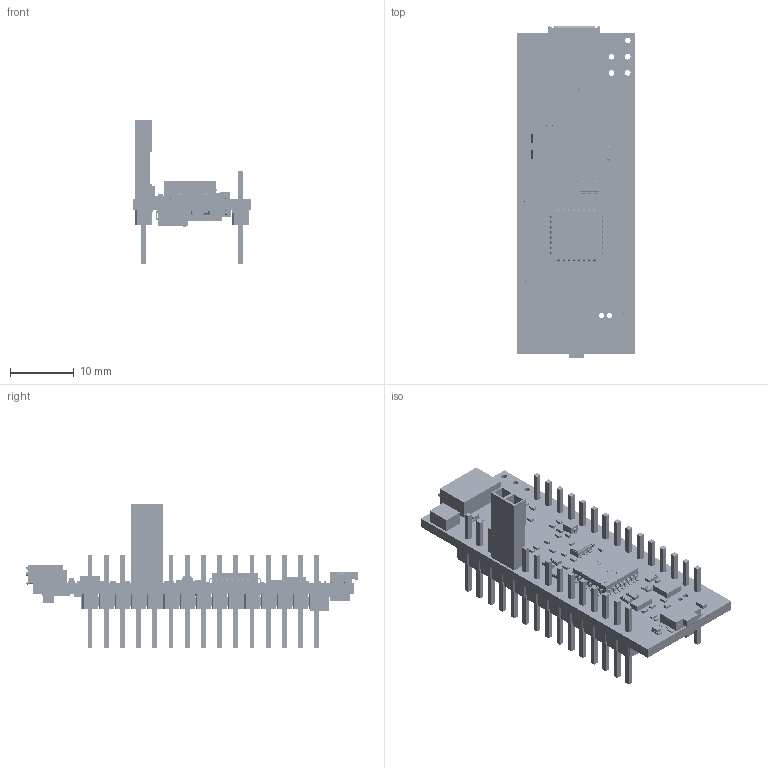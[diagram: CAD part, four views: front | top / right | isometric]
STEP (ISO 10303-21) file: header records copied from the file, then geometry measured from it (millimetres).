
FILE_DESCRIPTION(('Open CASCADE Model'),'2;1');
FILE_NAME('Open CASCADE Shape Model','2026-02-05T16:57:15',('Author'),( 'Open CASCADE'),'Open CASCADE STEP processor 7.5','Open CASCADE 7.5' ,'Unknown');
FILE_SCHEMA(('AUTOMOTIVE_DESIGN { 1 0 10303 214 1 1 1 1 }'));
Length unit declared in the file: millimetre
Products named in the file (216): PCB; Board; Open CASCADE STEP translator 7.5 1.1.1; R7; R0402; 9609665616; Extruded; SB8; R0603; 9609666256; B1; KSS221GLFS; 9609666736; 9609666576; C26; C0402; 9636093264; C25; C18; C15; C16; C13; C2; C1; C6; C5; C22; C23; C4; C20; C21; C11; C10; C8; C9; C7; C19; C17; C12; C14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
Assembly tree (527 placements, depth 8):
  PCB
    Board
      Open CASCADE STEP translator 7.5 1.1.1
    R7
      R0402
      9609665616
        Extruded
    SB8
      R0603
      9609666256
        Extruded
    B1
      KSS221GLFS
      9609666736
        Extruded
      9609666576
        Extruded
    C26
      C0402
      9636093264
        Extruded
    C25
      C0402
      9636093264
        Extruded
    C18
      C0402
      9636093264
        Extruded
    C15
      C0402
      9636093264
        Extruded
    C16
      C0402
      9636093264
        Extruded
    C13
      C0402
      9636093264
        Extruded
    C2
      C0402
      9636093264
        Extruded
    C1
      C0402
      9609665616
        Extruded
    C6
      C0402
      9609665616
        Extruded
    C5
      C0402
      9609665616
        Extruded
    C22
      C0402
      9636093264
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Bounding box: 18.54 x 52.06 x 22.5 mm (x, y, z)
Volume: 3196.9 mm3; surface area: 8351.1 mm2
Topology: 454 solids, 459 shells, 16462 faces, 39184 edges, 22707 vertices
Faces by surface type: plane 6710, cylinder 4969, bspline 3185, sphere 1198, torus 207, revolution 192, cone 1
Full cylindrical faces by diameter (mm): 0.2 x2, 0.7 x4, 0.8 x3, 0.9 x7, 1.1 x30
Entity records: 126697 total; most frequent: CARTESIAN_POINT 34893, ORIENTED_EDGE 16766, DIRECTION 15878, EDGE_CURVE 8388, LINE 5902, VECTOR 5902, VERTEX_POINT 5413, AXIS2_PLACEMENT_3D 4984
